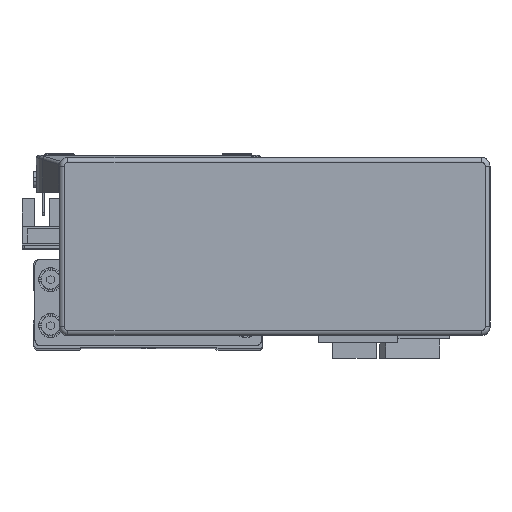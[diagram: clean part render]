
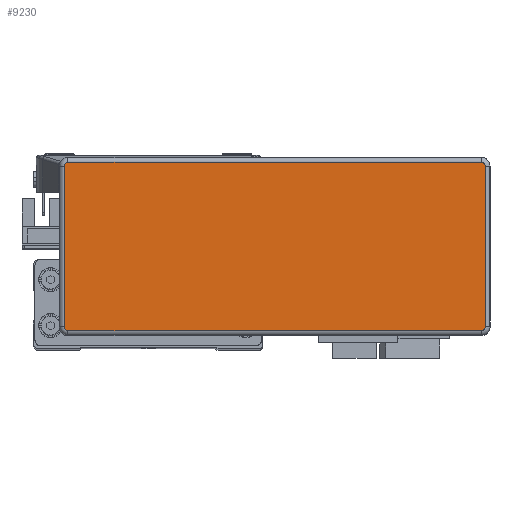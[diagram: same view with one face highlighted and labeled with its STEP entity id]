
A CAD part, top view. The second image highlights one B-rep face of the part: STEP entity #9230.
In plain terms, the highlighted planar face has unit normal (0, 0, 1) as drawn and (0, 0, -1) by its records, which use the part's own axes.
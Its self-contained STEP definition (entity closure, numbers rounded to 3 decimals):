
#3437 = AXIS2_PLACEMENT_3D ( 'NONE', #5672, #5691, #5668 ) ;
#3439 = AXIS2_PLACEMENT_3D ( 'NONE', #5728, #5696, #5700 ) ;
#3490 = AXIS2_PLACEMENT_3D ( 'NONE', #5626, #5647, #5624 ) ;
#3496 = AXIS2_PLACEMENT_3D ( 'NONE', #5670, #5660, #5684 ) ;
#5572 = DIRECTION ( 'NONE',  ( -1., 0., 0. ) ) ;
#5583 = CARTESIAN_POINT ( 'NONE',  ( 71.995, -29.295, -32.2 ) ) ;
#5615 = DIRECTION ( 'NONE',  ( 1., 0., 0. ) ) ;
#5624 = DIRECTION ( 'NONE',  ( 1., 0., 0. ) ) ;
#5626 = CARTESIAN_POINT ( 'NONE',  ( 71.995, -27.995, -32.2 ) ) ;
#5627 = DIRECTION ( 'NONE',  ( 0., 1., 0. ) ) ;
#5633 = CARTESIAN_POINT ( 'NONE',  ( -73.295, -27.995, -32.2 ) ) ;
#5647 = DIRECTION ( 'NONE',  ( 0., 0., -1. ) ) ;
#5650 = CARTESIAN_POINT ( 'NONE',  ( 71.995, 29.295, -32.2 ) ) ;
#5660 = DIRECTION ( 'NONE',  ( 0., 0., -1. ) ) ;
#5668 = DIRECTION ( 'NONE',  ( 1., 0., 0. ) ) ;
#5670 = CARTESIAN_POINT ( 'NONE',  ( 71.995, 27.995, -32.2 ) ) ;
#5672 = CARTESIAN_POINT ( 'NONE',  ( -71.995, 27.995, -32.2 ) ) ;
#5684 = DIRECTION ( 'NONE',  ( 1., 0., 0. ) ) ;
#5691 = DIRECTION ( 'NONE',  ( 0., 0., -1. ) ) ;
#5696 = DIRECTION ( 'NONE',  ( 0., 0., -1. ) ) ;
#5700 = DIRECTION ( 'NONE',  ( 1., 0., 0. ) ) ;
#5728 = CARTESIAN_POINT ( 'NONE',  ( -71.995, -27.995, -32.2 ) ) ;
#5729 = CARTESIAN_POINT ( 'NONE',  ( 73.295, -27.995, -32.2 ) ) ;
#5730 = DIRECTION ( 'NONE',  ( 0., -1., 0. ) ) ;
#6609 = DIRECTION ( 'NONE',  ( 0., 0., 1. ) ) ;
#6617 = PLANE ( 'NONE',  #38543 ) ;
#6620 = DIRECTION ( 'NONE',  ( 1., 0., 0. ) ) ;
#6623 = CARTESIAN_POINT ( 'NONE',  ( 71.995, -27.995, -32.2 ) ) ;
#9230 = ADVANCED_FACE ( 'NONE', ( #17136 ), #6617, .F. ) ;
#15294 = ORIENTED_EDGE ( 'NONE', *, *, #20134, .T. ) ;
#15295 = ORIENTED_EDGE ( 'NONE', *, *, #20101, .T. ) ;
#15297 = ORIENTED_EDGE ( 'NONE', *, *, #20108, .T. ) ;
#15306 = ORIENTED_EDGE ( 'NONE', *, *, #20115, .T. ) ;
#15326 = ORIENTED_EDGE ( 'NONE', *, *, #20130, .T. ) ;
#15335 = ORIENTED_EDGE ( 'NONE', *, *, #20110, .T. ) ;
#15336 = ORIENTED_EDGE ( 'NONE', *, *, #20143, .T. ) ;
#15337 = ORIENTED_EDGE ( 'NONE', *, *, #20144, .T. ) ;
#17136 = FACE_OUTER_BOUND ( 'NONE', #22352, .T. ) ;
#17263 = VERTEX_POINT ( 'NONE', #42286 ) ;
#17274 = VERTEX_POINT ( 'NONE', #42259 ) ;
#17275 = VERTEX_POINT ( 'NONE', #42277 ) ;
#17279 = VERTEX_POINT ( 'NONE', #42279 ) ;
#17292 = VERTEX_POINT ( 'NONE', #42306 ) ;
#17356 = VERTEX_POINT ( 'NONE', #42361 ) ;
#17362 = VERTEX_POINT ( 'NONE', #42374 ) ;
#17375 = VERTEX_POINT ( 'NONE', #42377 ) ;
#20101 = EDGE_CURVE ( 'NONE', #17292, #17279, #30602, .T. ) ;
#20108 = EDGE_CURVE ( 'NONE', #17362, #17292, #30612, .T. ) ;
#20110 = EDGE_CURVE ( 'NONE', #17274, #17356, #30577, .T. ) ;
#20115 = EDGE_CURVE ( 'NONE', #17375, #17275, #30578, .T. ) ;
#20130 = EDGE_CURVE ( 'NONE', #17275, #17274, #30648, .T. ) ;
#20134 = EDGE_CURVE ( 'NONE', #17356, #17263, #30649, .T. ) ;
#20143 = EDGE_CURVE ( 'NONE', #17279, #17375, #30650, .T. ) ;
#20144 = EDGE_CURVE ( 'NONE', #17263, #17362, #30683, .T. ) ;
#22352 = EDGE_LOOP ( 'NONE', ( #15337, #15297, #15295, #15336, #15306, #15326, #15335, #15294 ) ) ;
#30577 = LINE ( 'NONE', #5650, #30615 ) ;
#30578 = LINE ( 'NONE', #5633, #30618 ) ;
#30602 = LINE ( 'NONE', #5583, #30603 ) ;
#30603 = VECTOR ( 'NONE', #5572, 1000. ) ;
#30612 = CIRCLE ( 'NONE', #3490, 1.3 ) ;
#30615 = VECTOR ( 'NONE', #5615, 1000. ) ;
#30618 = VECTOR ( 'NONE', #5627, 1000. ) ;
#30631 = VECTOR ( 'NONE', #5730, 1000. ) ;
#30648 = CIRCLE ( 'NONE', #3437, 1.3 ) ;
#30649 = CIRCLE ( 'NONE', #3496, 1.3 ) ;
#30650 = CIRCLE ( 'NONE', #3439, 1.3 ) ;
#30683 = LINE ( 'NONE', #5729, #30631 ) ;
#38543 = AXIS2_PLACEMENT_3D ( 'NONE', #6623, #6609, #6620 ) ;
#42259 = CARTESIAN_POINT ( 'NONE',  ( -71.995, 29.295, -32.2 ) ) ;
#42277 = CARTESIAN_POINT ( 'NONE',  ( -73.295, 27.995, -32.2 ) ) ;
#42279 = CARTESIAN_POINT ( 'NONE',  ( -71.995, -29.295, -32.2 ) ) ;
#42286 = CARTESIAN_POINT ( 'NONE',  ( 73.295, 27.995, -32.2 ) ) ;
#42306 = CARTESIAN_POINT ( 'NONE',  ( 71.995, -29.295, -32.2 ) ) ;
#42361 = CARTESIAN_POINT ( 'NONE',  ( 71.995, 29.295, -32.2 ) ) ;
#42374 = CARTESIAN_POINT ( 'NONE',  ( 73.295, -27.995, -32.2 ) ) ;
#42377 = CARTESIAN_POINT ( 'NONE',  ( -73.295, -27.995, -32.2 ) ) ;
